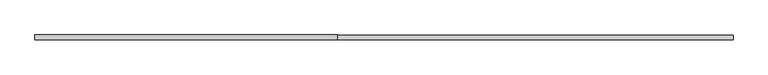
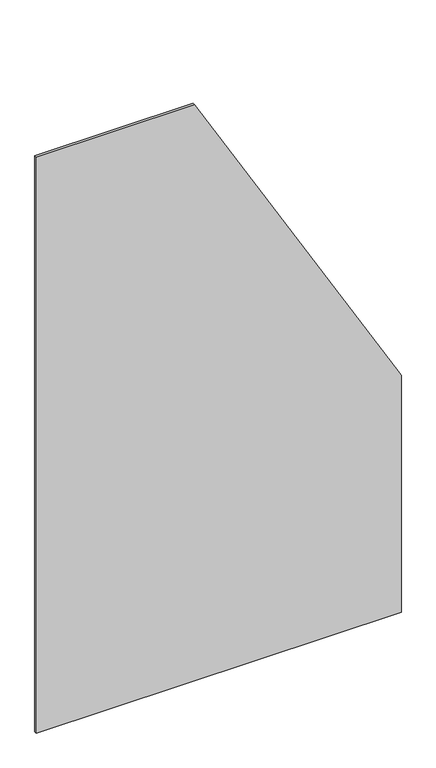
"""IFC4 building model written with IfcOpenShell, lengths in millimetres: plate geometry, 系統嵌板 : 玻璃 1.0cm."""

from ifc_helpers import new_model, si_unit, frame, origin, place, context, project, spatial, polyline, outline, extrude, source, transform, mapped, element, save


def plate_20378150(model_context):
    return source(origin(), model_context, "Body", "SweptSolid", [
        extrude(outline(polyline([(0.0, -750.0), (0.0, 750.0), (1028.8568297, 750.0), (2500.0, -99.3649054), (2500.0, -750.0), (0.0, -750.0)])), frame((0.0, -5.0, 0.0), z_axis=(0.0, 1.0, 0.0), x_axis=(0.0, 0.0, 1.0)), (0.0, 0.0, 1.0), 10.0),
    ])


if __name__ == "__main__":
    model = new_model("IFC4")
    model_context = context("Model", 3, world=origin())
    ifc_project = project(units=[si_unit("LENGTHUNIT", "METRE", prefix="MILLI")], contexts=[model_context])
    site = spatial("IfcSite", under=ifc_project)
    building = spatial("IfcBuilding", under=site)
    placement = place(None, origin())
    plate_shape = plate_20378150(model_context)
    element("IfcPlate", 1, ObjectType="系統嵌板 : 玻璃 1.0cm", at=placement, inside=building, context=model_context, shape_type="MappedRepresentation", body=[
        mapped(plate_shape, transform((0.0, 0.0, 0.0), x_axis=(1.0, 0.0, 0.0), y_axis=(0.0, 1.0, 0.0), z_axis=(0.0, 0.0, 1.0))),
    ])
    save(model, "model.ifc")
